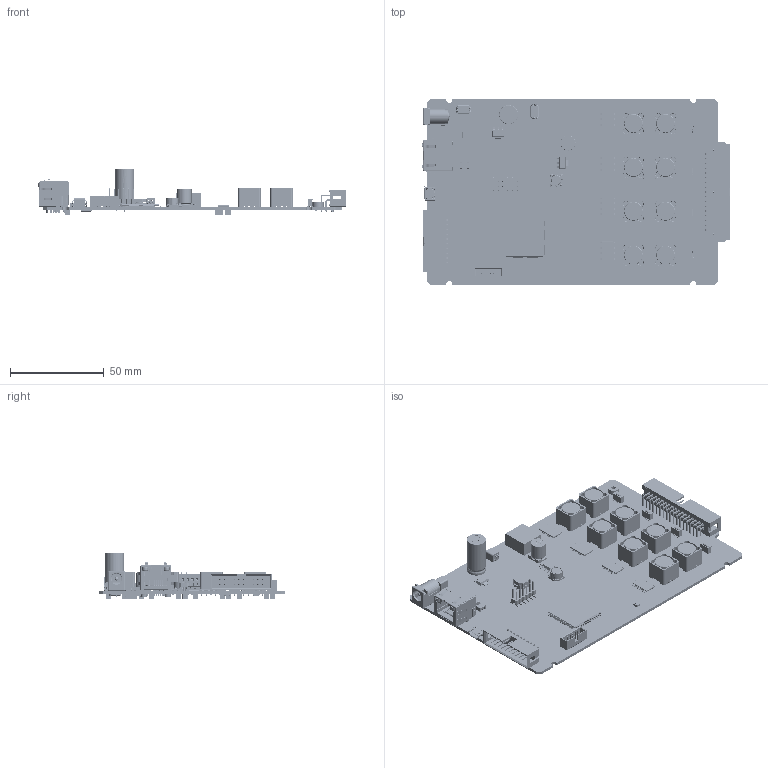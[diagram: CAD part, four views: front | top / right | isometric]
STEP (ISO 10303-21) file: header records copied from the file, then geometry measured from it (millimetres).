
FILE_DESCRIPTION(('Open CASCADE Model'),'2;1');
FILE_NAME('Open CASCADE Shape Model','2023-01-09T16:34:42',('Author'),( 'Open CASCADE'),'Open CASCADE STEP processor 6.8','Open CASCADE 6.8' ,'Unknown');
FILE_SCHEMA(('AUTOMOTIVE_DESIGN { 1 0 10303 214 1 1 1 1 }'));
Products named in the file (1): PCB
Bounding box: 164.64 x 99.5 x 24.74 mm (x, y, z)
Volume: 40736.6 mm3; surface area: 64407.5 mm2
Topology: 378 solids, 8102 shells, 18832 faces, 58717 edges, 48043 vertices
Faces by surface type: plane 13977, cylinder 3898, bspline 348, sphere 326, torus 159, revolution 68, cone 46, extrusion 10
Full cylindrical faces by diameter (mm): 0.5 x26, 0.75 x10, 0.85 x12, 1 x4, 2.459 x1, 4.2 x1, 6 x1, 8 x1
Entity records: 745196 total; most frequent: CARTESIAN_POINT 168355, DIRECTION 101323, ORIENTED_EDGE 88096, EDGE_CURVE 58333, VERTEX_POINT 48042, VECTOR 46989, LINE 46979, AXIS2_PLACEMENT_3D 27133
